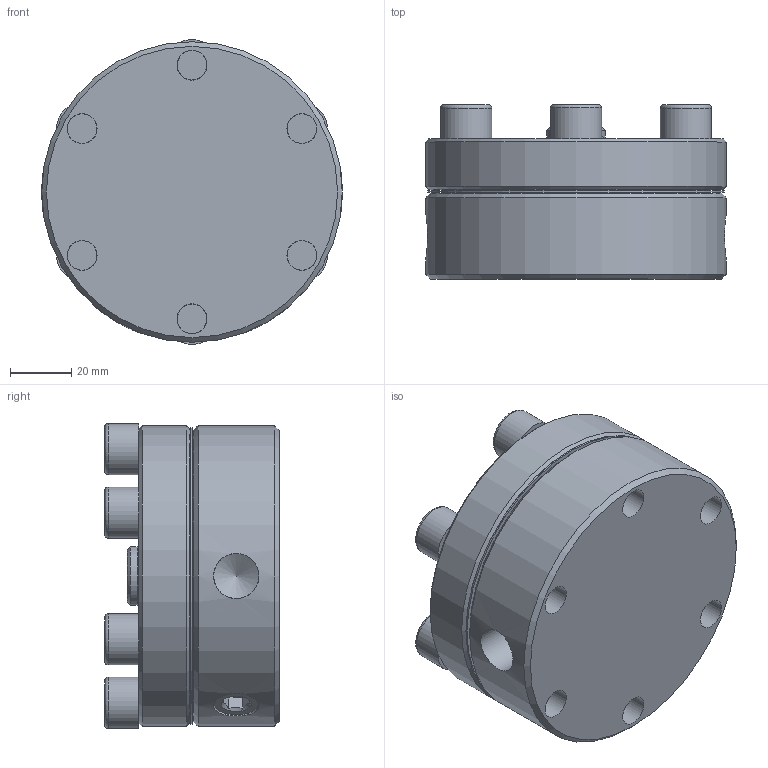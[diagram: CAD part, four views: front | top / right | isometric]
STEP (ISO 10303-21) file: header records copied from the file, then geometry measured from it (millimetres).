
FILE_DESCRIPTION(/* description */ (''),/* implementation_level */ '2;1');
FILE_NAME(/* name */ 'Z:\Models\GS Series\GS3\External Models & Other\GSDH3SNX4 Ext Assembly.stp',/* time_stamp */ '2018-01-10T12:47:07-05:00',/* author */ ('Owner'),/* organization */ (''),/* preprocessor_version */ 'ST-DEVELOPER v15.6',/* originating_system */ 'Autodesk Inventor 2015',/* authorisation */ '');
FILE_SCHEMA (('CONFIG_CONTROL_DESIGN'));
Length unit declared in the file: inch
Products named in the file (8): GSD3 Metal NR HP 2500; GSD3 HP 2500 Diaphragm; Countersunk_Hex-Head_Plug_219P-62; GSD3 RC HP 2500; Oring - 036; Oring - 038; ANSI B18.3 - 7_16-20 UNF - 1.25(31); GSD3 Assembly R4
Assembly tree (13 placements, depth 2):
  GSD3 Assembly R4
    GSD3 Metal NR HP 2500
    GSD3 HP 2500 Diaphragm
    Countersunk_Hex-Head_Plug_219P-62  x2
    GSD3 RC HP 2500
    Oring - 036
    Oring - 038
    ANSI B18.3 - 7_16-20 UNF - 1.25(31)  x6
Bounding box: 97.79 x 56.77 x 99.17 mm (x, y, z)
Volume: 308118.6 mm3; surface area: 91779.6 mm2
Topology: 13 solids, 13 shells, 245 faces, 607 edges, 398 vertices
Faces by surface type: plane 120, cylinder 74, cone 32, torus 19
Full cylindrical faces by diameter (mm): 1.524 x1, 8.611 x1, 9.728 x6, 11.112 x6, 11.506 x12, 14.732 x6, 16.662 x6, 19.05 x1, 58.268 x1, 63.195 x1, 64.592 x1, 69.52 x1, 96.52 x1, 97.79 x2
Entity records: 3925 total; most frequent: CARTESIAN_POINT 777, DIRECTION 641, ORIENTED_EDGE 492, AXIS2_PLACEMENT_3D 276, EDGE_CURVE 246, EDGE_LOOP 236, VERTEX_POINT 194, FACE_OUTER_BOUND 128
